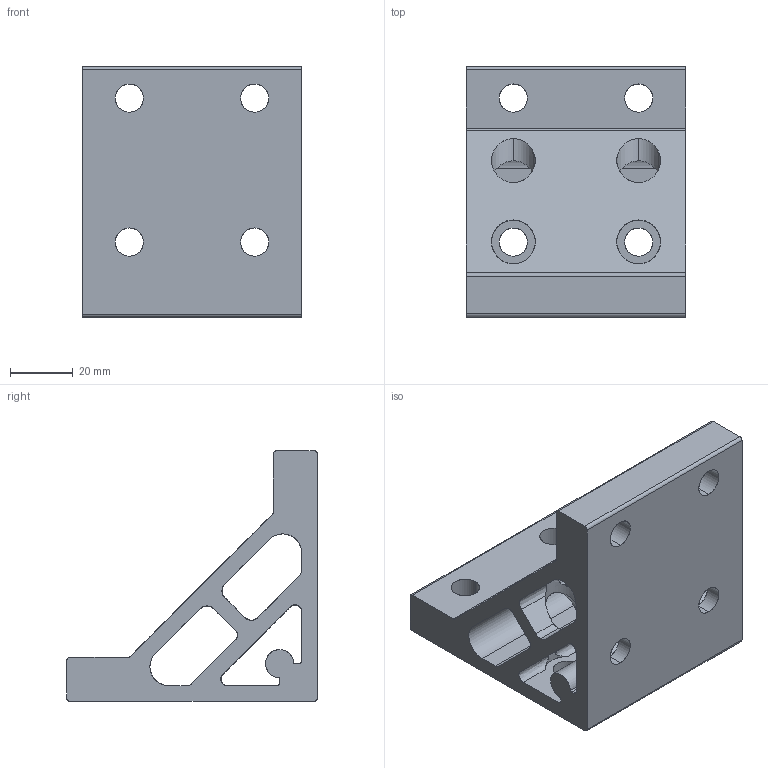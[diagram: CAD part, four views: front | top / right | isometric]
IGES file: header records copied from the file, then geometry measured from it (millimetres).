
Start section: SolidWorks IGES file using analytic representation for surfaces
Global section: file name: C:\Documents and Settings\Administrator\デスクトップ\ハードブラケットGW80\SFJ-N17.IGS,41HSolidWorks; native system: 2006 by SolidWorks Corporation; preprocessor: SolidWorks 2006 by SolidWorks Corporation; author: Administrator; date: 061222.172538; units: millimetre
Bounding box: 70 x 80 x 80 mm (x, y, z)
Surface area: 42456.8 mm2 (no closed solid volume)
Topology: 0 solids, 0 shells, 103 faces, 3257 edges, 3584 vertices
Faces by surface type: revolution 75, bspline 28
